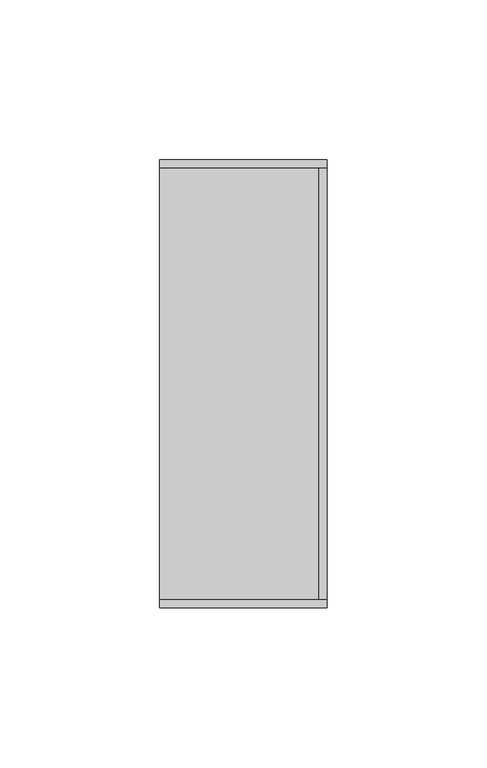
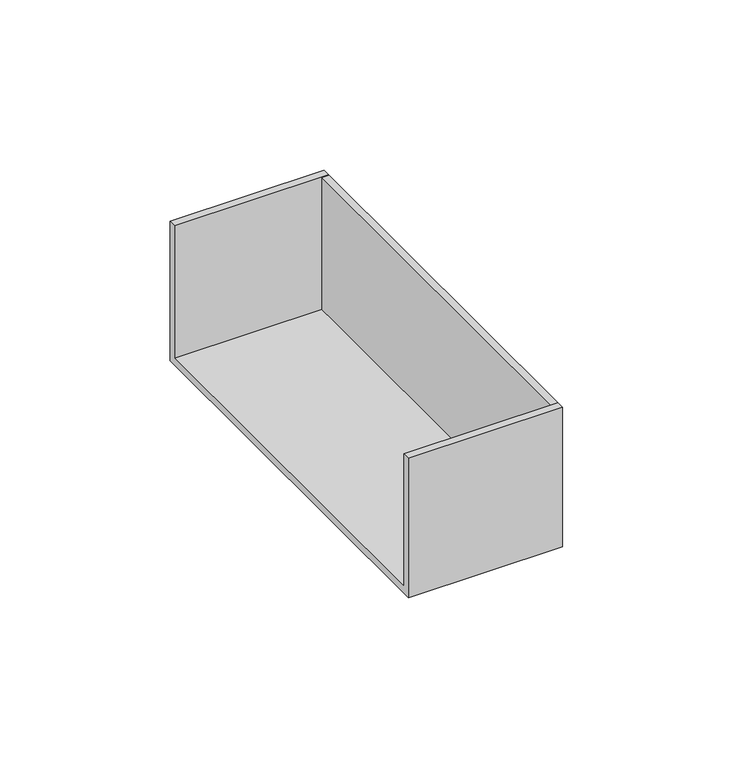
"""IFC4 building model written with IfcOpenShell, lengths in millimetres: cable carrier fitting geometry, КНС_ЗаглушкаТорцевая_ILF_DKC : Заглушка."""

from ifc_helpers import new_model, si_unit, frame, origin, place, context, project, spatial, polyline, outline, extrude, source, transform, mapped, element, save


def cable_carrier_fitting_e4d7804b(model_context):
    return source(origin(), model_context, "Body", "SweptSolid", [
        extrude(outline(polyline([(70.0, -25.0), (-70.0, -25.0), (-70.0, 25.0), (-67.5, 25.0), (-67.5, -22.5), (67.5, -22.5), (67.5, 25.0), (70.0, 25.0), (70.0, -25.0)])), frame((-52.2, 0.0, 0.0), z_axis=(1.0, 0.0, 0.0), x_axis=(0.0, 1.0, 0.0)), (0.0, 0.0, 1.0), 52.2),
        extrude(outline(polyline([(0.0, 67.5), (0.0, -67.5), (-2.5, -67.5), (-2.5, 67.5), (0.0, 67.5)])), frame((0.0, 0.0, -25.0), z_axis=(0.0, 0.0, 1.0), x_axis=(1.0, 0.0, 0.0)), (0.0, 0.0, 1.0), 50.0),
    ])


if __name__ == "__main__":
    model = new_model("IFC4")
    model_context = context("Model", 3, world=origin())
    ifc_project = project(units=[si_unit("LENGTHUNIT", "METRE", prefix="MILLI")], contexts=[model_context])
    site = spatial("IfcSite", under=ifc_project)
    building = spatial("IfcBuilding", under=site)
    placement = place(None, origin())
    cable_carrier_fitting_shape = cable_carrier_fitting_e4d7804b(model_context)
    element("IfcCableCarrierFitting", 1, ObjectType="КНС_ЗаглушкаТорцевая_ILF_DKC : Заглушка", at=placement, inside=building, context=model_context, shape_type="MappedRepresentation", body=[
        mapped(cable_carrier_fitting_shape, transform((0.0, 0.0, 0.0), x_axis=(1.0, 0.0, 0.0), y_axis=(0.0, 1.0, 0.0), z_axis=(0.0, 0.0, 1.0))),
    ])
    save(model, "model.ifc")
